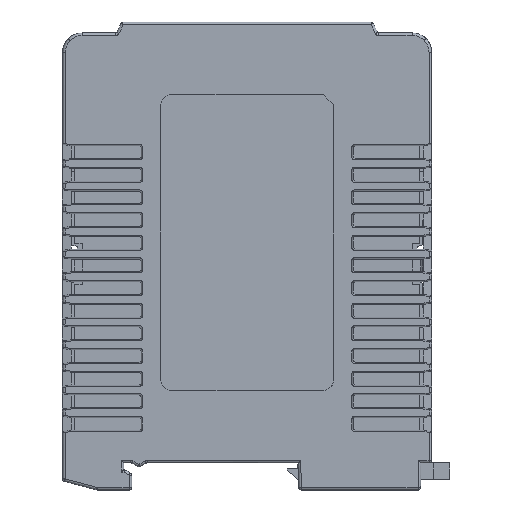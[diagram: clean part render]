
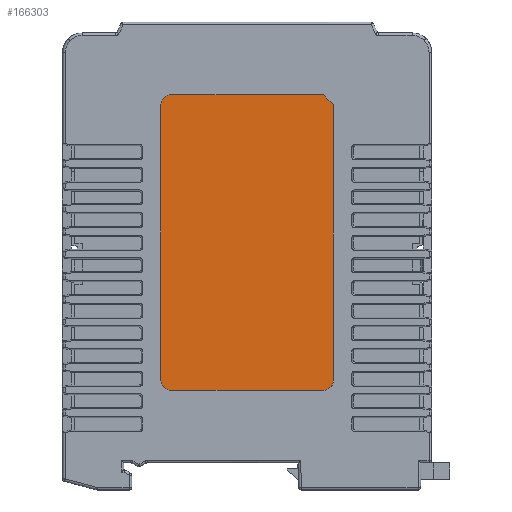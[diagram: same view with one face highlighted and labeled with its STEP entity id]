
A CAD part, front view. The second image highlights one B-rep face of the part: STEP entity #166303.
In plain terms, the highlighted planar face has unit normal (0, -1, 0) as drawn and (0, 0, 1) by its records, which use the part's own axes.
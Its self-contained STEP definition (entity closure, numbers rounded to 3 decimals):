
#138035=DIRECTION('',(0.707,0.707,0.));
#138036=VECTOR('',#138035,2.828);
#138037=CARTESIAN_POINT('',(28.,-17.5,1.4));
#138038=LINE('',#138037,#138036);
#138039=DIRECTION('',(1.,0.,0.));
#138040=VECTOR('',#138039,56.);
#138041=CARTESIAN_POINT('',(-28.,-17.5,1.4));
#138042=LINE('',#138041,#138040);
#138043=CARTESIAN_POINT('',(-28.,-15.5,1.4));
#138044=DIRECTION('',(0.,0.,1.));
#138045=DIRECTION('',(-1.,0.,0.));
#138046=AXIS2_PLACEMENT_3D('',#138043,#138044,#138045);
#138048=DIRECTION('',(0.,-1.,0.));
#138049=VECTOR('',#138048,31.);
#138050=CARTESIAN_POINT('',(-30.,15.5,1.4));
#138051=LINE('',#138050,#138049);
#138052=CARTESIAN_POINT('',(-28.,15.5,1.4));
#138053=DIRECTION('',(0.,0.,1.));
#138054=DIRECTION('',(0.,1.,0.));
#138055=AXIS2_PLACEMENT_3D('',#138052,#138053,#138054);
#138057=DIRECTION('',(-1.,0.,0.));
#138058=VECTOR('',#138057,56.);
#138059=CARTESIAN_POINT('',(28.,17.5,1.4));
#138060=LINE('',#138059,#138058);
#138061=CARTESIAN_POINT('',(28.,15.5,1.4));
#138062=DIRECTION('',(0.,0.,1.));
#138063=DIRECTION('',(1.,0.,0.));
#138064=AXIS2_PLACEMENT_3D('',#138061,#138062,#138063);
#138066=DIRECTION('',(0.,1.,0.));
#138067=VECTOR('',#138066,31.);
#138068=CARTESIAN_POINT('',(30.,-15.5,1.4));
#138069=LINE('',#138068,#138067);
#156255=CARTESIAN_POINT('',(30.,15.5,1.4));
#156256=CARTESIAN_POINT('',(28.,17.5,1.4));
#156257=VERTEX_POINT('',#156255);
#156258=VERTEX_POINT('',#156256);
#156263=CARTESIAN_POINT('',(-30.,-15.5,1.4));
#156264=CARTESIAN_POINT('',(-28.,-17.5,1.4));
#156265=VERTEX_POINT('',#156263);
#156266=VERTEX_POINT('',#156264);
#156893=CARTESIAN_POINT('',(-30.,15.5,1.4));
#156894=VERTEX_POINT('',#156893);
#156895=CARTESIAN_POINT('',(-28.,17.5,1.4));
#156896=VERTEX_POINT('',#156895);
#156898=CARTESIAN_POINT('',(30.,-15.5,1.4));
#156900=VERTEX_POINT('',#156898);
#156902=CARTESIAN_POINT('',(28.,-17.5,1.4));
#156904=VERTEX_POINT('',#156902);
#166282=CARTESIAN_POINT('',(0.,0.,1.4));
#166283=DIRECTION('',(0.,0.,1.));
#166284=DIRECTION('',(1.,0.,0.));
#166285=AXIS2_PLACEMENT_3D('',#166282,#166283,#166284);
#166286=PLANE('',#166285);
#166287=ORIENTED_EDGE('',*,*,#166275,.F.);
#166288=ORIENTED_EDGE('',*,*,#166263,.F.);
#166290=ORIENTED_EDGE('',*,*,#166289,.F.);
#166292=ORIENTED_EDGE('',*,*,#166291,.F.);
#166294=ORIENTED_EDGE('',*,*,#166293,.F.);
#166296=ORIENTED_EDGE('',*,*,#166295,.F.);
#166298=ORIENTED_EDGE('',*,*,#166297,.F.);
#166300=ORIENTED_EDGE('',*,*,#166299,.F.);
#166301=EDGE_LOOP('',(#166287,#166288,#166290,#166292,#166294,#166296,#166298,
#166300));
#166302=FACE_OUTER_BOUND('',#166301,.F.);
#138047=CIRCLE('',#138046,2.);
#138056=CIRCLE('',#138055,2.);
#138065=CIRCLE('',#138064,2.);
#166263=EDGE_CURVE('',#156266,#156904,#138042,.T.);
#166275=EDGE_CURVE('',#156904,#156900,#138038,.T.);
#166289=EDGE_CURVE('',#156265,#156266,#138047,.T.);
#166291=EDGE_CURVE('',#156894,#156265,#138051,.T.);
#166293=EDGE_CURVE('',#156896,#156894,#138056,.T.);
#166295=EDGE_CURVE('',#156258,#156896,#138060,.T.);
#166297=EDGE_CURVE('',#156257,#156258,#138065,.T.);
#166299=EDGE_CURVE('',#156900,#156257,#138069,.T.);
#166303=ADVANCED_FACE('',(#166302),#166286,.T.);
